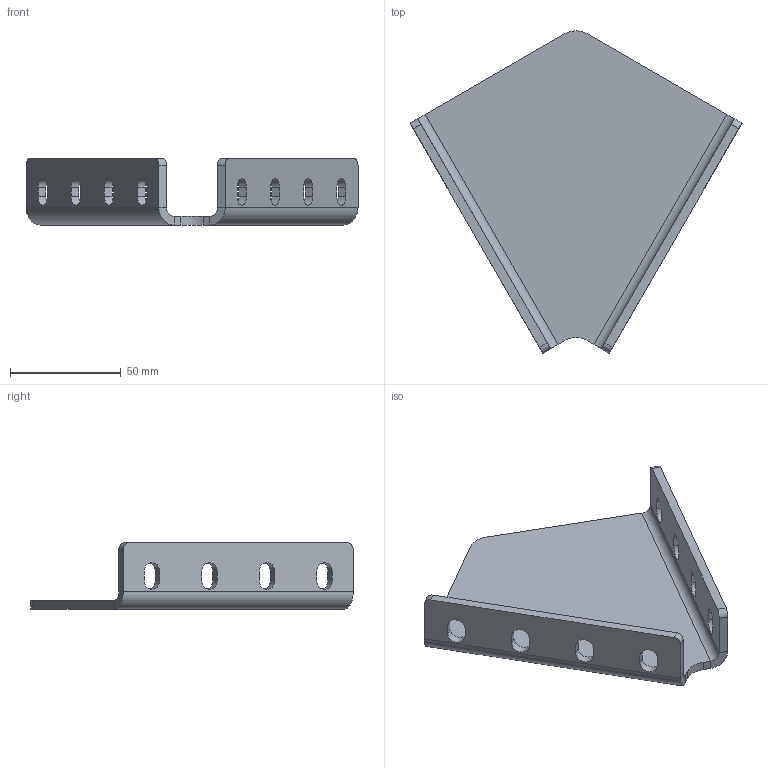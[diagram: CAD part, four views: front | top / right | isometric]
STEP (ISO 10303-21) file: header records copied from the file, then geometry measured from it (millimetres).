
FILE_DESCRIPTION (( 'STEP AP214' ), '1' );
FILE_NAME ('3012060.STEP', '2019-11-01T13:49:23', ( '' ), ( '' ), 'SwSTEP 2.0', 'SolidWorks 2014', '' );
FILE_SCHEMA (( 'AUTOMOTIVE_DESIGN' ));
Length unit declared in the file: millimetre
Products named in the file (2): 3012060
Bounding box: 150 x 145.68 x 30 mm (x, y, z)
Volume: 69600.4 mm3; surface area: 38017.5 mm2
Topology: 1 solids, 1 shells, 62 faces, 164 edges, 104 vertices
Faces by surface type: plane 36, cylinder 26
Entity records: 1993 total; most frequent: DIRECTION 344, CARTESIAN_POINT 332, ORIENTED_EDGE 328, EDGE_CURVE 164, AXIS2_PLACEMENT_3D 116, LINE 112, VECTOR 112, VERTEX_POINT 104
